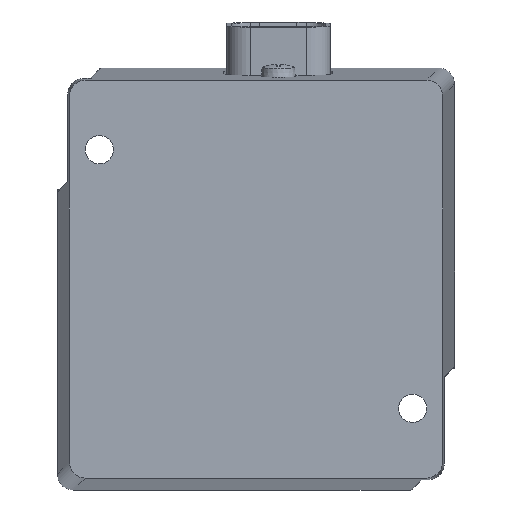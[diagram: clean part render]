
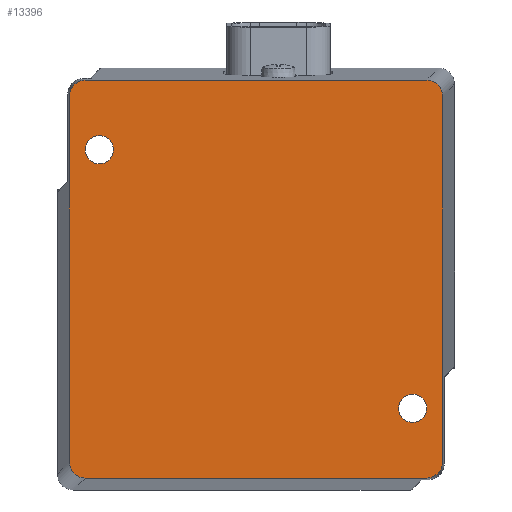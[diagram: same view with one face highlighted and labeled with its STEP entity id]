
A CAD part, front view. The second image highlights one B-rep face of the part: STEP entity #13396.
In plain terms, the highlighted planar face has unit normal (0, -1, 0).
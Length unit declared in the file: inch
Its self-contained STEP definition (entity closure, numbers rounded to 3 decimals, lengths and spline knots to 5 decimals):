
#70=ELLIPSE('',#14398,0.12534,0.125);
#71=ELLIPSE('',#14402,0.12534,0.125);
#72=ELLIPSE('',#14403,0.12534,0.125);
#73=ELLIPSE('',#14404,0.12534,0.125);
#513=FACE_BOUND('',#2849,.T.);
#514=FACE_BOUND('',#2850,.T.);
#515=FACE_BOUND('',#2851,.T.);
#1150=CIRCLE('',#14359,0.1119);
#1164=CIRCLE('',#14401,0.1119);
#2849=EDGE_LOOP('',(#11403));
#2850=EDGE_LOOP('',(#11404));
#2851=EDGE_LOOP('',(#11405,#11406,#11407,#11408,#11409,#11410,#11411,#11412));
#3799=LINE('',#24667,#4832);
#3814=LINE('',#24883,#4847);
#3919=LINE('',#26854,#4952);
#3921=LINE('',#26862,#4954);
#4832=VECTOR('',#16957,2.89995);
#4847=VECTOR('',#16994,2.89995);
#4952=VECTOR('',#17351,2.7031);
#4954=VECTOR('',#17359,2.7031);
#5983=VERTEX_POINT('',#24664);
#5984=VERTEX_POINT('',#24666);
#6009=VERTEX_POINT('',#24880);
#6010=VERTEX_POINT('',#24882);
#6144=VERTEX_POINT('',#26695);
#6164=VERTEX_POINT('',#26848);
#6165=VERTEX_POINT('',#26853);
#6166=VERTEX_POINT('',#26857);
#6167=VERTEX_POINT('',#26859);
#6168=VERTEX_POINT('',#26861);
#7670=EDGE_CURVE('',#5984,#5983,#3799,.T.);
#7700=EDGE_CURVE('',#6010,#6009,#3814,.T.);
#7903=EDGE_CURVE('',#6144,#6144,#1150,.T.);
#7936=EDGE_CURVE('',#5984,#6164,#70,.T.);
#7939=EDGE_CURVE('',#6165,#6164,#3919,.T.);
#7941=EDGE_CURVE('',#6166,#6166,#1164,.T.);
#7942=EDGE_CURVE('',#6167,#5983,#71,.T.);
#7943=EDGE_CURVE('',#6167,#6168,#3921,.T.);
#7944=EDGE_CURVE('',#6010,#6168,#72,.T.);
#7945=EDGE_CURVE('',#6165,#6009,#73,.T.);
#11403=ORIENTED_EDGE('',*,*,#7903,.T.);
#11404=ORIENTED_EDGE('',*,*,#7941,.T.);
#11405=ORIENTED_EDGE('',*,*,#7936,.F.);
#11406=ORIENTED_EDGE('',*,*,#7670,.T.);
#11407=ORIENTED_EDGE('',*,*,#7942,.F.);
#11408=ORIENTED_EDGE('',*,*,#7943,.T.);
#11409=ORIENTED_EDGE('',*,*,#7944,.F.);
#11410=ORIENTED_EDGE('',*,*,#7700,.T.);
#11411=ORIENTED_EDGE('',*,*,#7945,.F.);
#11412=ORIENTED_EDGE('',*,*,#7939,.T.);
#11971=PLANE('',#14400);
#13396=ADVANCED_FACE('',(#513,#514,#515),#11971,.F.);
#14359=AXIS2_PLACEMENT_3D('',#26696,#17253,#17254);
#14398=AXIS2_PLACEMENT_3D('',#26849,#17345,#17346);
#14400=AXIS2_PLACEMENT_3D('',#26856,#17353,#17354);
#14401=AXIS2_PLACEMENT_3D('',#26858,#17355,#17356);
#14402=AXIS2_PLACEMENT_3D('',#26860,#17357,#17358);
#14403=AXIS2_PLACEMENT_3D('',#26863,#17360,#17361);
#14404=AXIS2_PLACEMENT_3D('',#26864,#17362,#17363);
#16957=DIRECTION('',(0.,0.,-1.));
#16994=DIRECTION('',(0.,0.,1.));
#17253=DIRECTION('center_axis',(0.,1.,0.));
#17254=DIRECTION('ref_axis',(1.,0.,0.));
#17345=DIRECTION('center_axis',(0.,1.,0.));
#17346=DIRECTION('ref_axis',(-0.707,0.,0.707));
#17351=DIRECTION('',(-1.,0.,0.));
#17353=DIRECTION('center_axis',(0.,1.,0.));
#17354=DIRECTION('ref_axis',(0.,0.,
-1.));
#17355=DIRECTION('center_axis',(0.,1.,0.));
#17356=DIRECTION('ref_axis',(1.,0.,0.));
#17357=DIRECTION('center_axis',(0.,1.,0.));
#17358=DIRECTION('ref_axis',(-0.707,0.,-0.707));
#17359=DIRECTION('',(1.,0.,0.));
#17360=DIRECTION('center_axis',(0.,1.,0.));
#17361=DIRECTION('ref_axis',(0.707,0.,-0.707));
#17362=DIRECTION('center_axis',(0.,1.,0.));
#17363=DIRECTION('ref_axis',(0.707,0.,0.707));
#24664=CARTESIAN_POINT('',(-1.47598,0.,-1.45013));
#24666=CARTESIAN_POINT('',(-1.47598,0.,1.44982));
#24667=CARTESIAN_POINT('',(-1.47598,0.,1.57465));
#24880=CARTESIAN_POINT('',(1.47677,0.,1.44982));
#24882=CARTESIAN_POINT('',(1.47677,0.,-1.45013));
#24883=CARTESIAN_POINT('',(1.47677,0.,-1.57495));
#26695=CARTESIAN_POINT('',(1.12865,0.,-1.02377));
#26696=CARTESIAN_POINT('Origin',(1.24055,0.,
-1.02377));
#26848=CARTESIAN_POINT('',(-1.35116,0.,1.57465));
#26849=CARTESIAN_POINT('Origin',(-1.35081,0.,
1.44948));
#26853=CARTESIAN_POINT('',(1.35194,0.,1.57465));
#26854=CARTESIAN_POINT('',(1.47677,0.,1.57465));
#26856=CARTESIAN_POINT('Origin',(0.00039,0.,
-0.00015));
#26857=CARTESIAN_POINT('',(-1.35166,0.,1.02347));
#26858=CARTESIAN_POINT('Origin',(-1.23976,0.,
1.02347));
#26859=CARTESIAN_POINT('',(-1.35116,0.,-1.57495));
#26860=CARTESIAN_POINT('Origin',(-1.35081,0.,
-1.44978));
#26861=CARTESIAN_POINT('',(1.35194,0.,-1.57495));
#26862=CARTESIAN_POINT('',(-1.47598,0.,-1.57495));
#26863=CARTESIAN_POINT('Origin',(1.3516,0.,
-1.44978));
#26864=CARTESIAN_POINT('Origin',(1.3516,0.,
1.44948));
